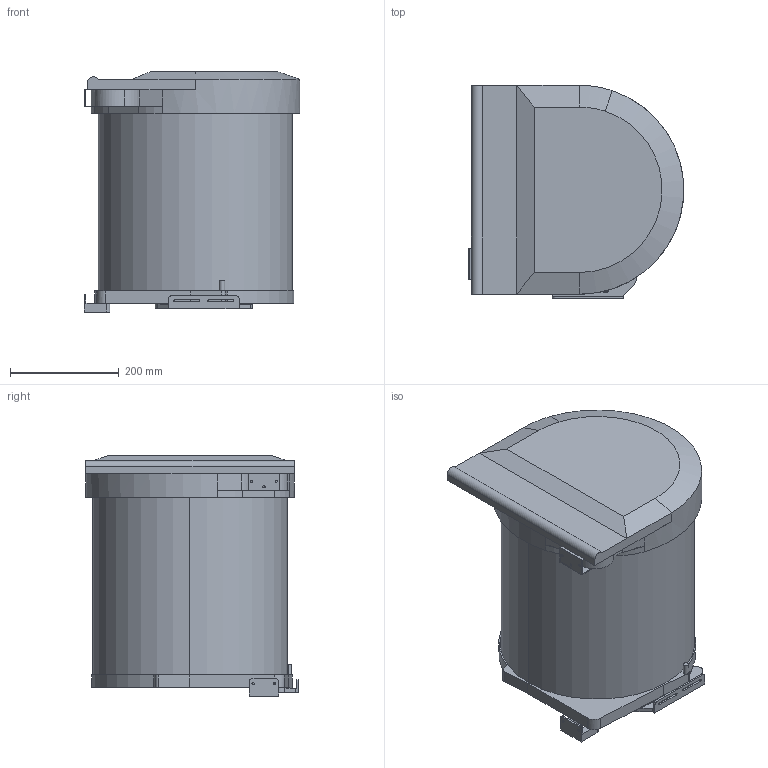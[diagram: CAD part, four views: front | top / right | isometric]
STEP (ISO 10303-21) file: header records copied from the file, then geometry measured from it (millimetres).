
FILE_DESCRIPTION(('STEP AP242'),'1');
FILE_NAME('OPO_53.441.18.stp','2025-11-08T20:31:46',(' '),(' '),'Spatial InterOp 3D',' ',' ');
FILE_SCHEMA(('AP242_MANAGED_MODEL_BASED_3D_ENGINEERING_MIM_LF {1 0 10303 442 1 1 4}'));
Length unit declared in the file: millimetre
Products named in the file (1): 1
Bounding box: 396.31 x 391.4 x 441.5 mm (x, y, z)
Volume: 44126967.3 mm3; surface area: 806250.3 mm2
Topology: 2 solids, 2 shells, 162 faces, 440 edges, 289 vertices
Faces by surface type: plane 90, cylinder 70, cone 2
Entity records: 6484 total; most frequent: DIRECTION 916, CARTESIAN_POINT 893, ORIENTED_EDGE 880, EDGE_CURVE 440, AXIS2_PLACEMENT_3D 312, LINE 292, VECTOR 292, VERTEX_POINT 289
